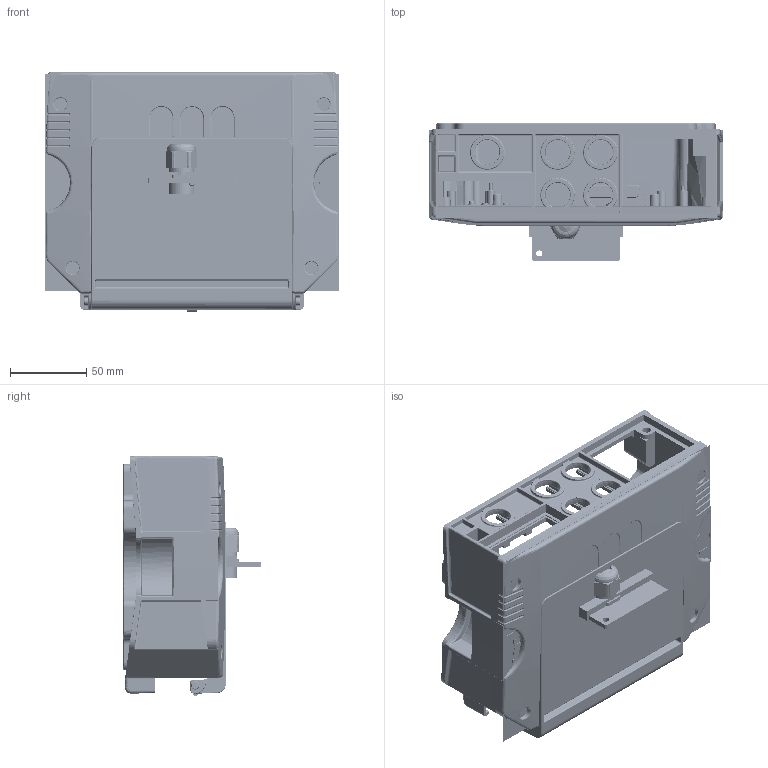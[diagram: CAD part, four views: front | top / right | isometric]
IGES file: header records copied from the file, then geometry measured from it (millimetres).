
Global section: file name: C:\studi10\CBX500-MODULAR.igs; preprocessor: I-DEAS 3D IGES Translator 13; date: 20081022.111940; units: millimetre
Bounding box: 192.5 x 89.75 x 156.78 mm (x, y, z)
Volume: 59861.7 mm3; surface area: 392732.1 mm2
Topology: 32 solids, 32 shells, 5151 faces, 25354 edges, 24643 vertices
Faces by surface type: bspline 5151
